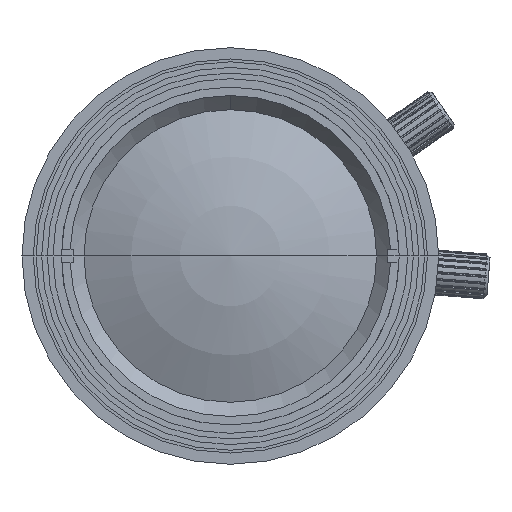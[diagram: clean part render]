
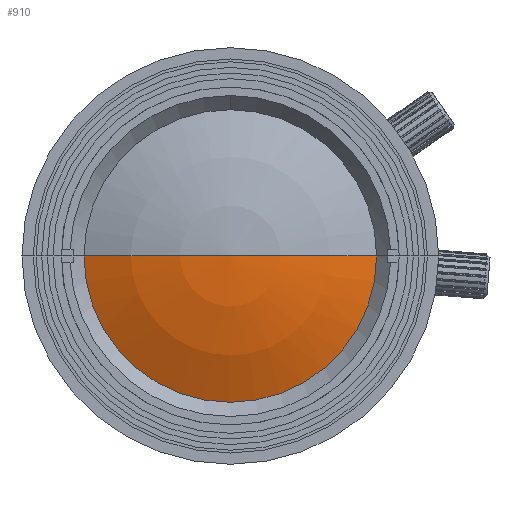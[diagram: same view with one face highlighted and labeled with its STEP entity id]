
A CAD part, left-side view. The second image highlights one B-rep face of the part: STEP entity #910.
In plain terms, the highlighted spherical face has radius 30.475 mm.
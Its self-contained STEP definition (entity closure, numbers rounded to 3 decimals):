
#25 = AXIS2_PLACEMENT_3D ( 'NONE', #40397, #14479, #33349 ) ;
#910 = ADVANCED_FACE ( 'NONE', ( #18808 ), #30809, .T. ) ;
#1626 = ORIENTED_EDGE ( 'NONE', *, *, #24396, .T. ) ;
#3493 = DIRECTION ( 'NONE',  ( 0., -1., 0. ) ) ;
#10949 = VERTEX_POINT ( 'NONE', #39520 ) ;
#14357 = CARTESIAN_POINT ( 'NONE',  ( -6.929, 0.232, 46.991 ) ) ;
#14479 = DIRECTION ( 'NONE',  ( -1., 0., 0. ) ) ;
#16871 = EDGE_LOOP ( 'NONE', ( #1626, #17362 ) ) ;
#17362 = ORIENTED_EDGE ( 'NONE', *, *, #29463, .T. ) ;
#18808 = FACE_OUTER_BOUND ( 'NONE', #16871, .T. ) ;
#20346 = CIRCLE ( 'NONE', #25, 12.992 ) ;
#24090 = CIRCLE ( 'NONE', #34632, 30.475 ) ;
#24396 = EDGE_CURVE ( 'NONE', #37701, #10949, #24090, .T. ) ;
#24736 = CARTESIAN_POINT ( 'NONE',  ( -34.496, -12.76, 46.991 ) ) ;
#25240 = DIRECTION ( 'NONE',  ( 0., 0., -1. ) ) ;
#29463 = EDGE_CURVE ( 'NONE', #10949, #37701, #20346, .T. ) ;
#30123 = CARTESIAN_POINT ( 'NONE',  ( -6.929, 0.232, 46.991 ) ) ;
#30809 = SPHERICAL_SURFACE ( 'NONE', #35613, 30.475 ) ;
#33349 = DIRECTION ( 'NONE',  ( 0., 0., -1. ) ) ;
#34358 = DIRECTION ( 'NONE',  ( 0., -1., 0. ) ) ;
#34632 = AXIS2_PLACEMENT_3D ( 'NONE', #14357, #25240, #3493 ) ;
#35613 = AXIS2_PLACEMENT_3D ( 'NONE', #30123, #40975, #34358 ) ;
#37701 = VERTEX_POINT ( 'NONE', #24736 ) ;
#39520 = CARTESIAN_POINT ( 'NONE',  ( -34.496, 13.225, 46.991 ) ) ;
#40397 = CARTESIAN_POINT ( 'NONE',  ( -34.496, 0.232, 46.991 ) ) ;
#40975 = DIRECTION ( 'NONE',  ( 1., 0., 0. ) ) ;
